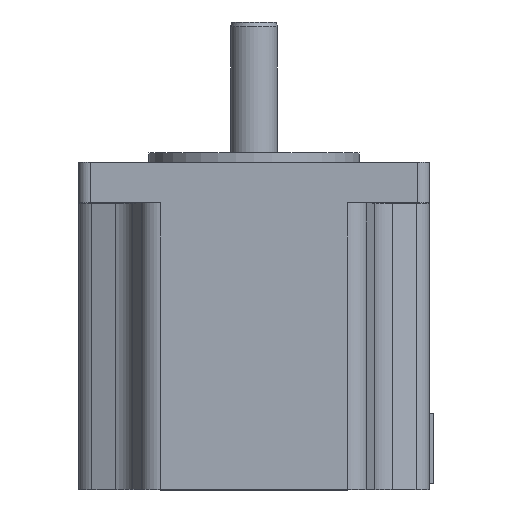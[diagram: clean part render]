
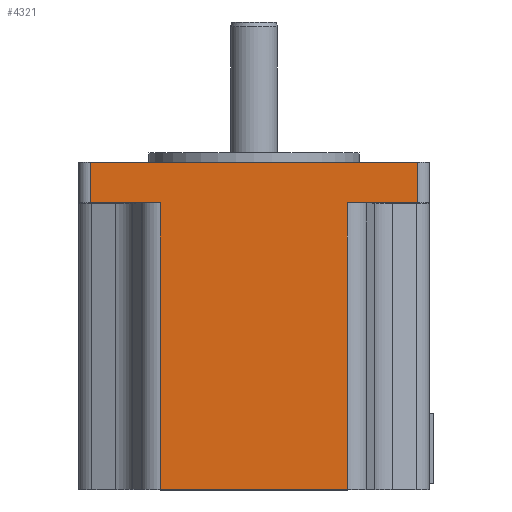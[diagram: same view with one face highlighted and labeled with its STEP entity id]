
A CAD part, top view. The second image highlights one B-rep face of the part: STEP entity #4321.
In plain terms, the highlighted planar face has unit normal (0, 0, 1).
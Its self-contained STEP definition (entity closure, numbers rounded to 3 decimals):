
#70=DIRECTION('',(1.,0.,0.));
#71=VECTOR('',#70,12.);
#72=CARTESIAN_POINT('',(16.,49.,30.));
#73=LINE('',#72,#71);
#79=DIRECTION('',(1.,0.,0.));
#80=VECTOR('',#79,12.);
#81=CARTESIAN_POINT('',(-28.,49.,30.));
#82=LINE('',#81,#80);
#168=DIRECTION('',(1.,0.,0.));
#169=VECTOR('',#168,56.);
#170=CARTESIAN_POINT('',(-28.,56.,30.));
#171=LINE('',#170,#169);
#1077=DIRECTION('',(0.,-1.,0.));
#1078=VECTOR('',#1077,7.);
#1079=CARTESIAN_POINT('',(-28.,56.,30.));
#1080=LINE('',#1079,#1078);
#1081=DIRECTION('',(0.,-1.,0.));
#1082=VECTOR('',#1081,7.);
#1083=CARTESIAN_POINT('',(28.,56.,30.));
#1084=LINE('',#1083,#1082);
#1085=DIRECTION('',(0.,1.,0.));
#1086=VECTOR('',#1085,49.);
#1087=CARTESIAN_POINT('',(-16.,0.,30.));
#1088=LINE('',#1087,#1086);
#1094=DIRECTION('',(0.,1.,0.));
#1095=VECTOR('',#1094,49.);
#1096=CARTESIAN_POINT('',(16.,0.,30.));
#1097=LINE('',#1096,#1095);
#1209=DIRECTION('',(1.,0.,0.));
#1210=VECTOR('',#1209,32.);
#1211=CARTESIAN_POINT('',(-16.,0.,30.));
#1212=LINE('',#1211,#1210);
#2178=CARTESIAN_POINT('',(-16.,0.,30.));
#2179=VERTEX_POINT('',#2178);
#2180=CARTESIAN_POINT('',(16.,0.,30.));
#2181=VERTEX_POINT('',#2180);
#2226=CARTESIAN_POINT('',(-16.,49.,30.));
#2227=VERTEX_POINT('',#2226);
#2228=CARTESIAN_POINT('',(16.,49.,30.));
#2230=VERTEX_POINT('',#2228);
#2248=CARTESIAN_POINT('',(-28.,49.,30.));
#2250=VERTEX_POINT('',#2248);
#2254=CARTESIAN_POINT('',(-28.,56.,30.));
#2255=VERTEX_POINT('',#2254);
#2257=CARTESIAN_POINT('',(28.,49.,30.));
#2259=VERTEX_POINT('',#2257);
#2260=CARTESIAN_POINT('',(28.,56.,30.));
#2261=VERTEX_POINT('',#2260);
#4302=CARTESIAN_POINT('',(-16.,0.,30.));
#4303=DIRECTION('',(0.,0.,1.));
#4304=DIRECTION('',(1.,0.,0.));
#4305=AXIS2_PLACEMENT_3D('',#4302,#4303,#4304);
#4306=PLANE('',#4305);
#4307=ORIENTED_EDGE('',*,*,#4297,.F.);
#4308=ORIENTED_EDGE('',*,*,#2966,.T.);
#4310=ORIENTED_EDGE('',*,*,#4309,.T.);
#4311=ORIENTED_EDGE('',*,*,#2887,.F.);
#4313=ORIENTED_EDGE('',*,*,#4312,.F.);
#4315=ORIENTED_EDGE('',*,*,#4314,.F.);
#4317=ORIENTED_EDGE('',*,*,#4316,.T.);
#4318=ORIENTED_EDGE('',*,*,#2904,.F.);
#4319=EDGE_LOOP('',(#4307,#4308,#4310,#4311,#4313,#4315,#4317,#4318));
#4320=FACE_OUTER_BOUND('',#4319,.F.);
#4321=ADVANCED_FACE('',(#4320),#4306,.T.);
#2887=EDGE_CURVE('',#2230,#2259,#73,.T.);
#2904=EDGE_CURVE('',#2250,#2227,#82,.T.);
#2966=EDGE_CURVE('',#2255,#2261,#171,.T.);
#4297=EDGE_CURVE('',#2255,#2250,#1080,.T.);
#4309=EDGE_CURVE('',#2261,#2259,#1084,.T.);
#4312=EDGE_CURVE('',#2181,#2230,#1097,.T.);
#4314=EDGE_CURVE('',#2179,#2181,#1212,.T.);
#4316=EDGE_CURVE('',#2179,#2227,#1088,.T.);
